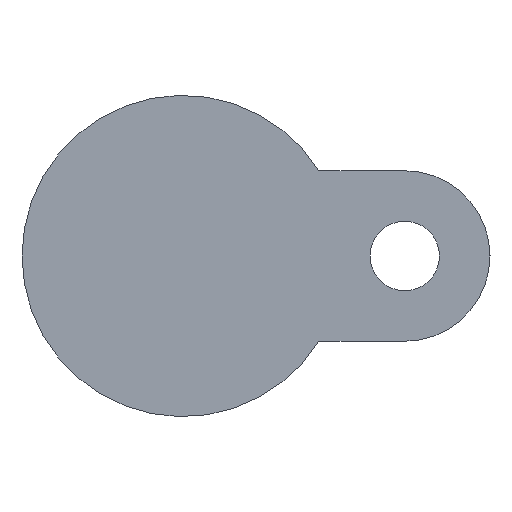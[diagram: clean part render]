
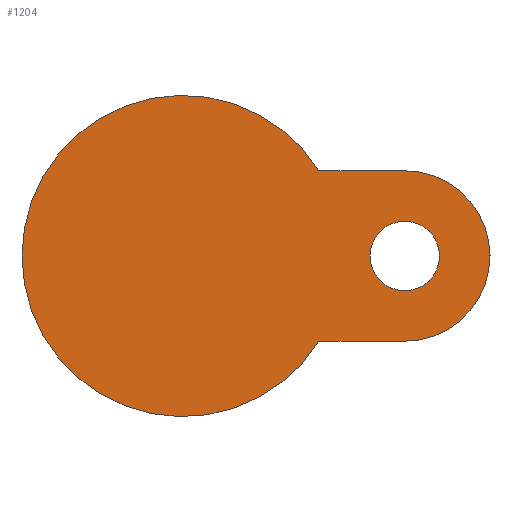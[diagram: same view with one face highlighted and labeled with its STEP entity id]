
A CAD part, front view. The second image highlights one B-rep face of the part: STEP entity #1204.
In plain terms, the highlighted planar face has unit normal (0, -1, 0).
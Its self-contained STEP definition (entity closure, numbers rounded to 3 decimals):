
#29 = EDGE_CURVE ( 'NONE', #1013, #473, #977, .T. ) ;
#41 = DIRECTION ( 'NONE',  ( 1., 0., 0. ) ) ;
#49 = CARTESIAN_POINT ( 'NONE',  ( 0., -23., 0. ) ) ;
#52 = EDGE_LOOP ( 'NONE', ( #539, #1194 ) ) ;
#59 = DIRECTION ( 'NONE',  ( 0., -1., 0. ) ) ;
#82 = LINE ( 'NONE', #308, #765 ) ;
#91 = EDGE_CURVE ( 'NONE', #519, #195, #373, .T. ) ;
#99 = CARTESIAN_POINT ( 'NONE',  ( 56., -23., 0. ) ) ;
#142 = DIRECTION ( 'NONE',  ( 1., 0., 0. ) ) ;
#169 = DIRECTION ( 'NONE',  ( 1., 0., 0. ) ) ;
#193 = DIRECTION ( 'NONE',  ( -1., 0., 0. ) ) ;
#195 = VERTEX_POINT ( 'NONE', #699 ) ;
#272 = AXIS2_PLACEMENT_3D ( 'NONE', #1392, #361, #41 ) ;
#288 = CARTESIAN_POINT ( 'NONE',  ( 64.75, -23., 0. ) ) ;
#308 = CARTESIAN_POINT ( 'NONE',  ( 30.5, -23., 21.5 ) ) ;
#361 = DIRECTION ( 'NONE',  ( 0., 1., 0. ) ) ;
#373 = CIRCLE ( 'NONE', #565, 40.5 ) ;
#432 = DIRECTION ( 'NONE',  ( -1., 0., 0. ) ) ;
#473 = VERTEX_POINT ( 'NONE', #1428 ) ;
#519 = VERTEX_POINT ( 'NONE', #1311 ) ;
#539 = ORIENTED_EDGE ( 'NONE', *, *, #943, .T. ) ;
#562 = EDGE_CURVE ( 'NONE', #473, #195, #733, .T. ) ;
#565 = AXIS2_PLACEMENT_3D ( 'NONE', #49, #580, #142 ) ;
#574 = CARTESIAN_POINT ( 'NONE',  ( 56., -23., 21.5 ) ) ;
#580 = DIRECTION ( 'NONE',  ( 0., -1., 0. ) ) ;
#583 = EDGE_CURVE ( 'NONE', #1206, #1318, #956, .T. ) ;
#650 = EDGE_CURVE ( 'NONE', #519, #1013, #82, .T. ) ;
#699 = CARTESIAN_POINT ( 'NONE',  ( 34.322, -23., -21.5 ) ) ;
#707 = ORIENTED_EDGE ( 'NONE', *, *, #650, .F. ) ;
#727 = ORIENTED_EDGE ( 'NONE', *, *, #91, .T. ) ;
#733 = LINE ( 'NONE', #1343, #1188 ) ;
#736 = CARTESIAN_POINT ( 'NONE',  ( 40.5, -23., 0. ) ) ;
#744 = CIRCLE ( 'NONE', #1260, 8.75 ) ;
#751 = PLANE ( 'NONE',  #1003 ) ;
#756 = ORIENTED_EDGE ( 'NONE', *, *, #29, .F. ) ;
#765 = VECTOR ( 'NONE', #1113, 1000. ) ;
#871 = FACE_OUTER_BOUND ( 'NONE', #1080, .T. ) ;
#886 = AXIS2_PLACEMENT_3D ( 'NONE', #99, #1230, #193 ) ;
#943 = EDGE_CURVE ( 'NONE', #1318, #1206, #744, .T. ) ;
#956 = CIRCLE ( 'NONE', #886, 8.75 ) ;
#977 = CIRCLE ( 'NONE', #272, 21.5 ) ;
#1003 = AXIS2_PLACEMENT_3D ( 'NONE', #736, #59, #169 ) ;
#1013 = VERTEX_POINT ( 'NONE', #574 ) ;
#1018 = CARTESIAN_POINT ( 'NONE',  ( 47.25, -23., 0. ) ) ;
#1080 = EDGE_LOOP ( 'NONE', ( #727, #1387, #756, #707 ) ) ;
#1101 = DIRECTION ( 'NONE',  ( 0., 1., 0. ) ) ;
#1113 = DIRECTION ( 'NONE',  ( 1., 0., 0. ) ) ;
#1187 = FACE_BOUND ( 'NONE', #52, .T. ) ;
#1188 = VECTOR ( 'NONE', #432, 1000. ) ;
#1194 = ORIENTED_EDGE ( 'NONE', *, *, #583, .T. ) ;
#1204 = ADVANCED_FACE ( 'NONE', ( #1187, #871 ), #751, .T. ) ;
#1206 = VERTEX_POINT ( 'NONE', #288 ) ;
#1216 = CARTESIAN_POINT ( 'NONE',  ( 56., -23., 0. ) ) ;
#1230 = DIRECTION ( 'NONE',  ( 0., 1., 0. ) ) ;
#1231 = DIRECTION ( 'NONE',  ( -1., 0., 0. ) ) ;
#1260 = AXIS2_PLACEMENT_3D ( 'NONE', #1216, #1101, #1231 ) ;
#1311 = CARTESIAN_POINT ( 'NONE',  ( 34.322, -23., 21.5 ) ) ;
#1318 = VERTEX_POINT ( 'NONE', #1018 ) ;
#1343 = CARTESIAN_POINT ( 'NONE',  ( 30.5, -23., -21.5 ) ) ;
#1387 = ORIENTED_EDGE ( 'NONE', *, *, #562, .F. ) ;
#1392 = CARTESIAN_POINT ( 'NONE',  ( 56., -23., 0. ) ) ;
#1428 = CARTESIAN_POINT ( 'NONE',  ( 56., -23., -21.5 ) ) ;
